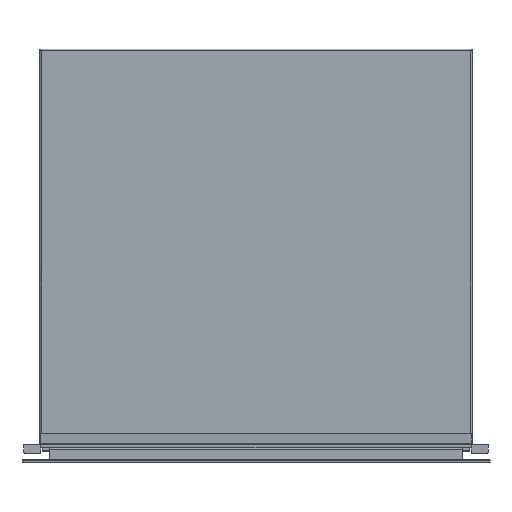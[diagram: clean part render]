
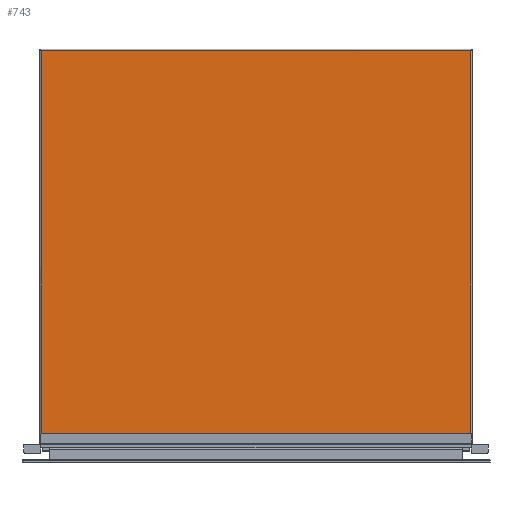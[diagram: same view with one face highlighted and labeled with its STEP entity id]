
A CAD part, front view. The second image highlights one B-rep face of the part: STEP entity #743.
In plain terms, the highlighted planar face has unit normal (0, -1, 0).
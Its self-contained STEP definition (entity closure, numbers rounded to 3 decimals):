
#40 = AXIS2_PLACEMENT_3D ( 'NONE', #5541, #77, #587 ) ;
#77 = DIRECTION ( 'NONE',  ( 0., 1., 0. ) ) ;
#128 = VERTEX_POINT ( 'NONE', #1340 ) ;
#244 = VERTEX_POINT ( 'NONE', #978 ) ;
#479 = VECTOR ( 'NONE', #2414, 1000. ) ;
#587 = DIRECTION ( 'NONE',  ( 0., 0., 1. ) ) ;
#743 = ADVANCED_FACE ( 'NONE', ( #5373 ), #3251, .F. ) ;
#978 = CARTESIAN_POINT ( 'NONE',  ( 273.95, 0., -489.15 ) ) ;
#1340 = CARTESIAN_POINT ( 'NONE',  ( 273.95, 0., -0.8 ) ) ;
#1409 = DIRECTION ( 'NONE',  ( -1., 0., 0. ) ) ;
#1530 = EDGE_CURVE ( 'NONE', #5660, #3740, #5359, .T. ) ;
#1646 = CARTESIAN_POINT ( 'NONE',  ( 273.95, 0., 1. ) ) ;
#2146 = EDGE_CURVE ( 'NONE', #244, #128, #4823, .T. ) ;
#2414 = DIRECTION ( 'NONE',  ( 0., 0., 1. ) ) ;
#2432 = EDGE_LOOP ( 'NONE', ( #3479, #4810, #4954, #3263 ) ) ;
#2817 = CARTESIAN_POINT ( 'NONE',  ( 275.75, 0., -0.8 ) ) ;
#3071 = VECTOR ( 'NONE', #1409, 1000. ) ;
#3159 = CARTESIAN_POINT ( 'NONE',  ( -273.95, 0., 0. ) ) ;
#3251 = PLANE ( 'NONE',  #40 ) ;
#3263 = ORIENTED_EDGE ( 'NONE', *, *, #2146, .T. ) ;
#3319 = CARTESIAN_POINT ( 'NONE',  ( -273.95, 0., -0.8 ) ) ;
#3479 = ORIENTED_EDGE ( 'NONE', *, *, #3629, .T. ) ;
#3549 = EDGE_CURVE ( 'NONE', #244, #3740, #3797, .T. ) ;
#3609 = DIRECTION ( 'NONE',  ( -1., 0., 0. ) ) ;
#3627 = DIRECTION ( 'NONE',  ( 0., 0., -1. ) ) ;
#3629 = EDGE_CURVE ( 'NONE', #128, #5660, #4665, .T. ) ;
#3740 = VERTEX_POINT ( 'NONE', #4737 ) ;
#3797 = LINE ( 'NONE', #4977, #4591 ) ;
#4591 = VECTOR ( 'NONE', #3609, 1000. ) ;
#4665 = LINE ( 'NONE', #2817, #3071 ) ;
#4737 = CARTESIAN_POINT ( 'NONE',  ( -273.95, 0., -489.15 ) ) ;
#4810 = ORIENTED_EDGE ( 'NONE', *, *, #1530, .T. ) ;
#4823 = LINE ( 'NONE', #1646, #479 ) ;
#4954 = ORIENTED_EDGE ( 'NONE', *, *, #3549, .F. ) ;
#4977 = CARTESIAN_POINT ( 'NONE',  ( 275.75, 0., -489.15 ) ) ;
#5162 = VECTOR ( 'NONE', #3627, 1000. ) ;
#5359 = LINE ( 'NONE', #3159, #5162 ) ;
#5373 = FACE_OUTER_BOUND ( 'NONE', #2432, .T. ) ;
#5541 = CARTESIAN_POINT ( 'NONE',  ( 275.75, 0., 0. ) ) ;
#5660 = VERTEX_POINT ( 'NONE', #3319 ) ;
